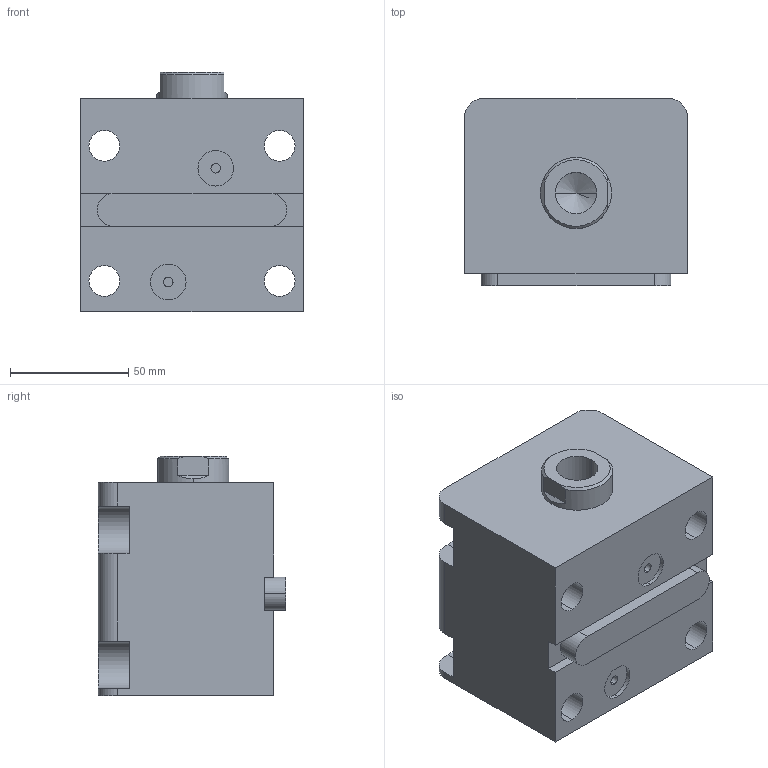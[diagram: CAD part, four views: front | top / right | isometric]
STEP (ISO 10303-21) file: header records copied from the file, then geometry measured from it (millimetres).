
FILE_DESCRIPTION (( 'STEP AP203' ), '1' );
FILE_NAME ('HTB-LAM50-30N.STEP', '2023-03-20T00:48:13', ( '微软用户' ), ( '微软中国' ), 'SwSTEP 2.0', 'SolidWorks 2012', '' );
FILE_SCHEMA (( 'CONFIG_CONTROL_DESIGN' ));
Length unit declared in the file: millimetre
Products named in the file (4): HTB-LAM50-30N; HTB-LWM50-瑩; HTB-LAM50-30N活塞杆; HTB-LAM50-30掛极
Assembly tree (3 placements, depth 2):
  HTB-LAM50-30N
    HTB-LAM50-30掛极
    HTB-LAM50-30N活塞杆
    HTB-LWM50-瑩
Bounding box: 94 x 79 x 101 mm (x, y, z)
Volume: 540438.5 mm3; surface area: 87245.4 mm2
Topology: 3 solids, 3 shells, 86 faces, 213 edges, 139 vertices
Faces by surface type: cylinder 39, plane 39, torus 4, cone 4
Entity records: 3001 total; most frequent: DIRECTION 475, CARTESIAN_POINT 470, ORIENTED_EDGE 422, EDGE_CURVE 211, AXIS2_PLACEMENT_3D 180, VERTEX_POINT 139, LINE 115, VECTOR 115
